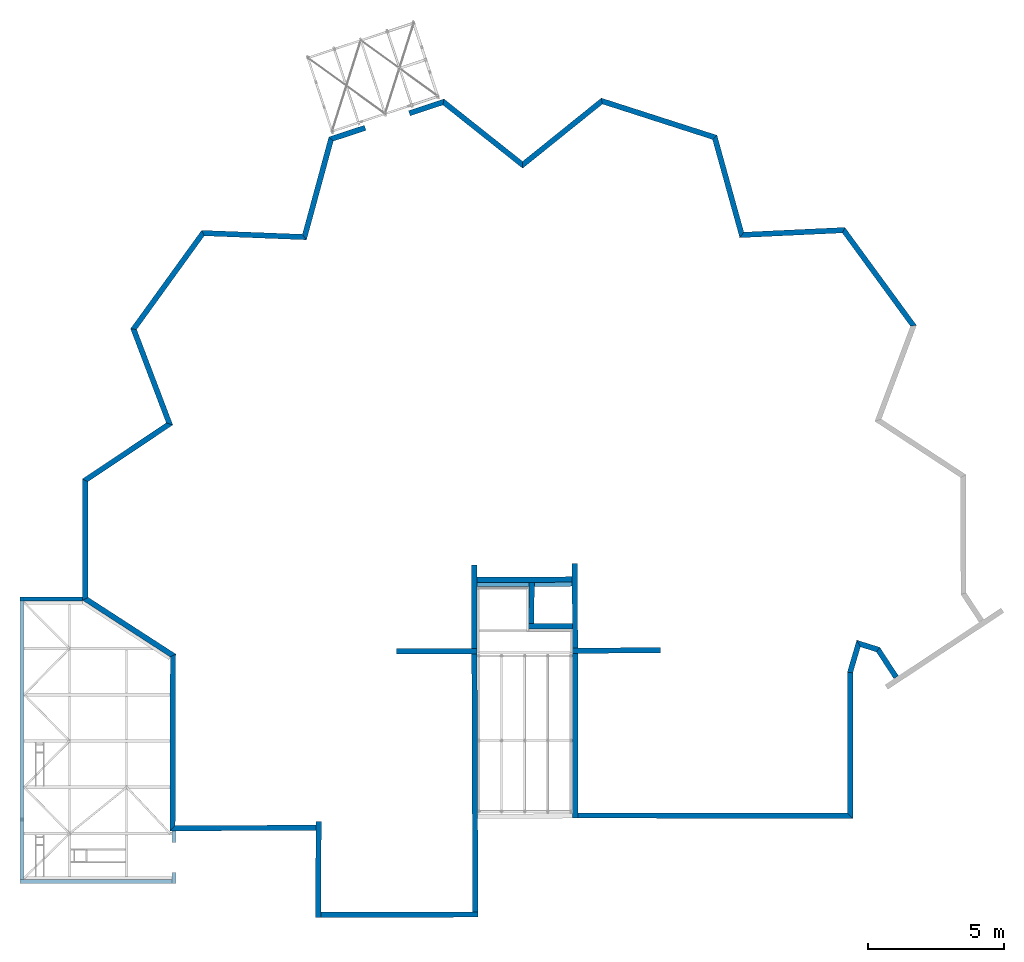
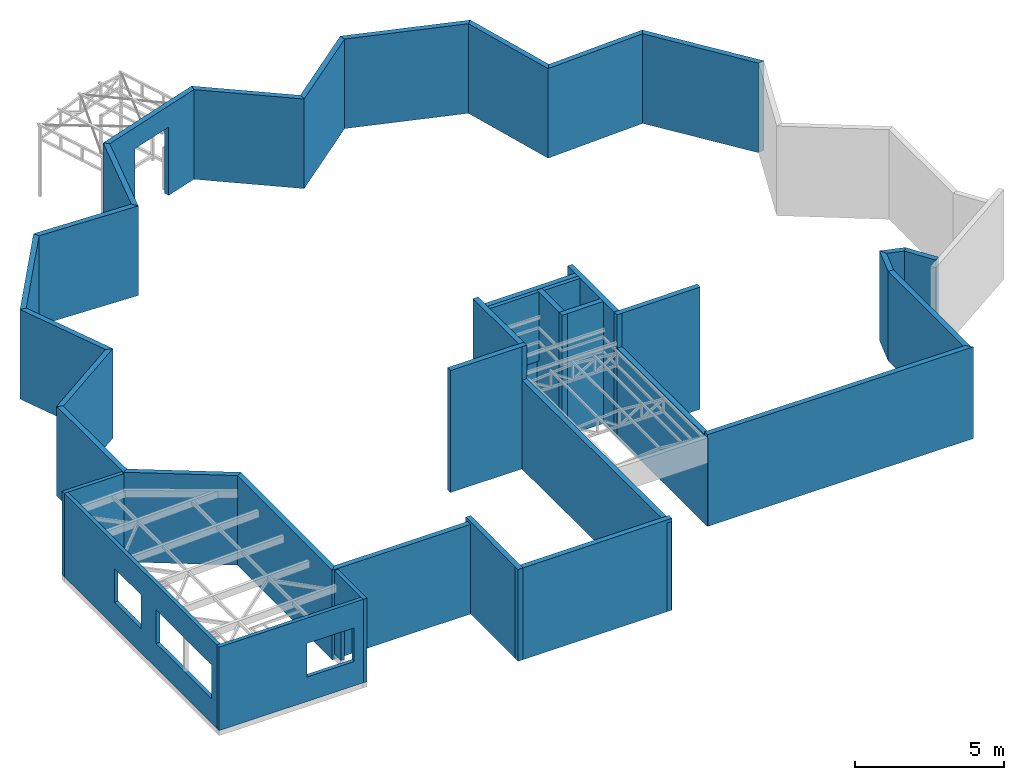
# One storey, part 8 of 9: 37 walls, 5 openings, 18 elements without a shape of their own.
"""IFC2X3 building model written with IfcOpenShell, lengths in millimetres."""

import ifcopenshell
import ifcopenshell.guid

model = None  # the IFC model being written
_history = None  # IfcOwnerHistory: only IFC2X3 demands one
_inside = {}  # id of a spatial element -> (the spatial element, [elements in it])
_under = {}  # id of a project, library or spatial element -> (it, [spatial elements below it])
_declared = {}  # id of a project -> (the project, [libraries it declares])
_typed = {}  # id of a type object -> (the type object, [elements of that type])
_made_of = {}  # id of a material, layer set ... -> (it, [elements and type objects made of it])


def new_model(schema):
    """Start an empty IFC model of exactly this schema.

    Asked for "IFC4X3", IfcOpenShell would pick the latest addendum, in which some entities
    have other attributes; the version numbers below select the first issue.
    IFC2X3 requires an IfcOwnerHistory on every rooted entity: one is made here for all.
    """
    global model, _history
    if schema == "IFC4X3":
        model = ifcopenshell.file(schema_version=(4, 3, 0, 0))
    else:
        model = ifcopenshell.file(schema=schema)
    _inside.clear()
    _under.clear()
    _declared.clear()
    _typed.clear()
    _made_of.clear()
    _history = None
    if model.schema == "IFC2X3":
        org = make("IfcOrganization", Name="unknown")
        user = make(
            "IfcPersonAndOrganization",
            ThePerson=make("IfcPerson", FamilyName="unknown"),
            TheOrganization=org,
        )
        app = make(
            "IfcApplication",
            ApplicationDeveloper=org,
            Version="unknown",
            ApplicationFullName="unknown",
            ApplicationIdentifier="unknown",
        )
        _history = make(
            "IfcOwnerHistory",
            OwningUser=user,
            OwningApplication=app,
            ChangeAction="ADDED",
            CreationDate=0,
        )
    return model


def make(cls, **values):
    """One entity of the class cls with the attributes given. An attribute that is None is left unset."""
    return model.create_entity(
        cls, **{name: value for name, value in values.items() if value is not None}
    )


def rooted(cls, **values):
    """An entity with a GlobalId (a new one), such as an element, a storey or a relation."""
    return make(cls, GlobalId=ifcopenshell.guid.new(), OwnerHistory=_history, **values)


def si_unit(unit_type, name, prefix=None):
    """IfcSIUnit, for example si_unit("LENGTHUNIT", "METRE", prefix="MILLI")."""
    return make("IfcSIUnit", UnitType=unit_type, Prefix=prefix, Name=name)


def assignment(units):
    """IfcUnitAssignment: the units of a project."""
    return None if units is None else make("IfcUnitAssignment", Units=units)


def point(xyz):
    """IfcCartesianPoint."""
    return None if xyz is None else make("IfcCartesianPoint", Coordinates=xyz)


def direction(xyz):
    """IfcDirection."""
    return None if xyz is None else make("IfcDirection", DirectionRatios=xyz)


def frame(location, z_axis=None, x_axis=None):
    """IfcAxis2Placement3D, a coordinate frame: its origin and axes. An axis left out is left unset."""
    return make(
        "IfcAxis2Placement3D",
        Location=point(location),
        Axis=direction(z_axis),
        RefDirection=direction(x_axis),
    )


def frame_2d(location, x_axis=None):
    """IfcAxis2Placement2D, a coordinate frame in the plane: its origin and x axis."""
    return make(
        "IfcAxis2Placement2D", Location=point(location), RefDirection=direction(x_axis)
    )


def origin_with_axes():
    """The frame at (0, 0, 0) with the z axis (0, 0, 1) and the x axis (1, 0, 0) written out."""
    return frame((0.0, 0.0, 0.0), z_axis=(0.0, 0.0, 1.0), x_axis=(1.0, 0.0, 0.0))


def place(relative_to, where):
    """IfcLocalPlacement: puts the frame where relative to a parent placement (None: the world)."""
    return make(
        "IfcLocalPlacement", PlacementRelTo=relative_to, RelativePlacement=where
    )


def context(
    kind, dimensions, precision=None, world=None, true_north=None, identifier=None
):
    """IfcGeometricRepresentationContext, for example the 3D "Model" context."""
    return make(
        "IfcGeometricRepresentationContext",
        ContextIdentifier=identifier,
        ContextType=kind,
        CoordinateSpaceDimension=dimensions,
        Precision=precision,
        WorldCoordinateSystem=world,
        TrueNorth=true_north,
    )


def subcontext(parent, identifier, kind, view, scale=None):
    """IfcGeometricRepresentationSubContext, for example "Body" below "Model"."""
    return make(
        "IfcGeometricRepresentationSubContext",
        ContextIdentifier=identifier,
        ContextType=kind,
        ParentContext=parent,
        TargetScale=scale,
        TargetView=view,
    )


def project(units=None, contexts=None):
    """IfcProject with its units and contexts."""
    return rooted(
        "IfcProject",
        Name="project",
        RepresentationContexts=contexts,
        UnitsInContext=assignment(units),
    )


def spatial(cls, under=None, at=None, **own):
    """A site, building, storey or space (cls), placed at a placement, below another one or the project."""
    s = rooted(cls, ObjectPlacement=at, **own)
    if under is not None:
        _under.setdefault(under.id(), (under, []))[1].append(s)
    return s


def polyline(points):
    """IfcPolyline through the points."""
    return make("IfcPolyline", Points=[point(p) for p in points])


def profile(cls, at=None, kind="AREA", **sizes):
    """A parametric profile (cls). Its sizes go by their IFC names, for example OverallWidth=200.0."""
    return make(cls, ProfileType=kind, Position=at, **sizes)


def rectangle(**sizes):
    """IfcRectangleProfileDef."""
    return profile("IfcRectangleProfileDef", **sizes)


def outline(outer, holes=None, kind="AREA"):
    """IfcArbitraryClosedProfileDef: a profile drawn as a closed curve; with holes, ...WithVoids."""
    if holes is None:
        return make("IfcArbitraryClosedProfileDef", ProfileType=kind, OuterCurve=outer)
    return make(
        "IfcArbitraryProfileDefWithVoids",
        ProfileType=kind,
        OuterCurve=outer,
        InnerCurves=holes,
    )


def extrude(swept, where, along, depth):
    """IfcExtrudedAreaSolid: the profile swept, set in the frame where, extruded along a direction by depth."""
    return make(
        "IfcExtrudedAreaSolid",
        SweptArea=swept,
        Position=where,
        ExtrudedDirection=direction(along),
        Depth=depth,
    )


def clip(a, b, op="DIFFERENCE"):
    """IfcBooleanClippingResult: the solid a cut by the half space b."""
    return make(
        "IfcBooleanClippingResult", Operator=op, FirstOperand=a, SecondOperand=b
    )


def halfspace(plane, agree):
    """IfcHalfSpaceSolid: all space on one side of the plane z = 0 of the frame plane."""
    return make(
        "IfcHalfSpaceSolid",
        BaseSurface=make("IfcPlane", Position=plane),
        AgreementFlag=agree,
    )


def shape(context_of_items, identifier, shape_type, items):
    """IfcShapeRepresentation: the items that make up one representation, for example the "Body"."""
    return make(
        "IfcShapeRepresentation",
        ContextOfItems=context_of_items,
        RepresentationIdentifier=identifier,
        RepresentationType=shape_type,
        Items=items,
    )


def material(Name=None, Category=None):
    """IfcMaterial."""
    return make("IfcMaterial", Name=Name, Category=Category)


def made_of(thing, what):
    """Note that an element or type object is made of a material, layer set ...; save() writes the relation."""
    if what is not None:
        _made_of.setdefault(what.id(), (what, []))[1].append(thing)
    return thing


def type_object(cls, material=None, **own):
    """A type object (cls), such as IfcWallType, which elements share."""
    return made_of(rooted(cls, **own), material)


def element(
    cls,
    number,
    at=None,
    inside=None,
    cuts=None,
    type_object=None,
    material=None,
    context=None,
    identifier="Body",
    shape_type=None,
    held_by="IfcProductDefinitionShape",
    body=None,
    shapes=None,
    **own,
):
    """One element of the class cls, such as IfcWall. Its Tag is "e" and its number.

    at: its placement. inside: the storey or other place that contains it. cuts: it is an
    opening in that element (IfcRelVoidsElement). A single representation is given by context,
    identifier, shape_type and body (its items); several are given by shapes. held_by: the class
    of the entity that holds the representations. save() writes the other relations.
    """
    e = rooted(cls, Tag="e%d" % number, ObjectPlacement=at, **own)
    if body is not None:
        shapes = [shape(context, identifier, shape_type, body)]
    if shapes is not None:
        e.Representation = make(held_by, Representations=shapes)
    if inside is not None:
        _inside.setdefault(inside.id(), (inside, []))[1].append(e)
    if cuts is not None:
        rooted(
            "IfcRelVoidsElement", RelatingBuildingElement=cuts, RelatedOpeningElement=e
        )
    if type_object is not None:
        _typed.setdefault(type_object.id(), (type_object, []))[1].append(e)
    return made_of(e, material)


def aggregate(whole, parts):
    """IfcRelAggregates: a whole, such as a stair, and the parts it consists of."""
    return rooted("IfcRelAggregates", RelatingObject=whole, RelatedObjects=parts)


def save(model, path):
    """Write the relations noted so far, then the file.

    IfcRelAggregates (storeys below a building ...), IfcRelContainedInSpatialStructure (elements
    in a storey), IfcRelDefinesByType, IfcRelAssociatesMaterial and IfcRelDeclares: one each for
    every whole, place, type object, material and project.
    """
    for whole, parts in _under.values():
        aggregate(whole, parts)
    for where, things in _inside.values():
        rooted(
            "IfcRelContainedInSpatialStructure",
            RelatedElements=things,
            RelatingStructure=where,
        )
    for kind, things in _typed.values():
        rooted("IfcRelDefinesByType", RelatedObjects=things, RelatingType=kind)
    for what, things in _made_of.values():
        rooted("IfcRelAssociatesMaterial", RelatedObjects=things, RelatingMaterial=what)
    for by, libraries in _declared.values():
        rooted("IfcRelDeclares", RelatingContext=by, RelatedDefinitions=libraries)
    model.write(path)


model = new_model("IFC2X3")

# Units and contexts
model_context = context("Model", 3, precision=1e-05, world=origin_with_axes())
body_context = subcontext(model_context, "Body", "Model", "MODEL_VIEW")
ifc_project = project(units=[si_unit("LENGTHUNIT", "METRE", prefix="MILLI"), si_unit("AREAUNIT", "SQUARE_METRE"), si_unit("VOLUMEUNIT", "CUBIC_METRE"), si_unit("MASSUNIT", "GRAM", prefix="KILO"), si_unit("TIMEUNIT", "SECOND"), si_unit("PLANEANGLEUNIT", "RADIAN"), si_unit("SOLIDANGLEUNIT", "STERADIAN"), si_unit("THERMODYNAMICTEMPERATUREUNIT", "DEGREE_CELSIUS"), si_unit("LUMINOUSINTENSITYUNIT", "LUMEN")], contexts=[model_context])

# Site, building, storey
site_placement = place(None, origin_with_axes())
site = spatial("IfcSite", under=ifc_project, at=site_placement, Name="01_26-05_PRO_BOULAZAC_CMA-FORMATION", CompositionType="ELEMENT")
building_placement = place(site_placement, origin_with_axes())
building = spatial("IfcBuilding", under=site, at=building_placement, Name="Undefined", CompositionType="ELEMENT")
storey_placement = place(building_placement, origin_with_axes())
storey = spatial("IfcBuildingStorey", under=building, at=storey_placement, Name="Undefined", CompositionType="ELEMENT", Elevation=0.0)

# Assembly, wall
assembly_1_placement = place(storey_placement, origin_with_axes())
assembly_1 = element("IfcElementAssembly", 1, at=assembly_1_placement, inside=storey, Name="PANNEAU", AssemblyPlace="NOTDEFINED", PredefinedType="NOTDEFINED")
ifc_material_1 = material(Name="CONCRETE/C25/30")
wall_type_1 = type_object("IfcWallType", Name="3630*200", PredefinedType="NOTDEFINED")
wall_1_placement = place(assembly_1_placement, frame((20887.6009734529, 13859.9122747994, 0.0), z_axis=(0.0, 0.0, 1.0), x_axis=(0.00216519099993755, -0.99999765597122, 0.0)))
wall_1 = element("IfcWallStandardCase", 2, at=wall_1_placement, type_object=wall_type_1, material=ifc_material_1, Name="PANNEAU", context=body_context, shape_type="SweptSolid", body=[
    extrude(rectangle(XDim=6054.52108959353, YDim=200.0, at=frame_2d((0.0, 3027.26054479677), x_axis=(0.0, -1.0))), frame((0.0, 0.0, 0.0), z_axis=(0.0, 0.0, 1.0), x_axis=(0.0, -1.0, 0.0)), (0.0, 0.0, 1.0), 3630.0),
])
aggregate(assembly_1, [wall_1])

assembly_2_placement = place(storey_placement, origin_with_axes())
assembly_2 = element("IfcElementAssembly", 3, at=assembly_2_placement, inside=storey, Name="PANNEAU", AssemblyPlace="NOTDEFINED", PredefinedType="NOTDEFINED")
wall_2_placement = place(assembly_2_placement, frame((17222.9926856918, 4167.75452609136, 0.0), z_axis=(0.0, 0.0, 1.0), x_axis=(-0.00356522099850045, 0.99999364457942, 0.0)))
wall_2 = element("IfcWallStandardCase", 4, at=wall_2_placement, type_object=wall_type_1, material=ifc_material_1, Name="PANNEAU", context=body_context, shape_type="SweptSolid", body=[
    extrude(rectangle(XDim=9667.9941359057, YDim=200.0, at=frame_2d((0.0, 4833.99706795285), x_axis=(0.0, -1.0))), frame((0.0, 0.0, 0.0), z_axis=(0.0, 0.0, 1.0), x_axis=(0.0, -1.0, 0.0)), (0.0, 0.0, 1.0), 3630.0),
])
aggregate(assembly_2, [wall_2])

assembly_3_placement = place(storey_placement, origin_with_axes())
assembly_3 = element("IfcElementAssembly", 5, at=assembly_3_placement, inside=storey, Name="PANNEAU", AssemblyPlace="NOTDEFINED", PredefinedType="NOTDEFINED")
wall_type_2 = type_object("IfcWallType", Name="5000*200", PredefinedType="NOTDEFINED")
wall_3_placement = place(assembly_3_placement, frame((17188.5241500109, 13835.6872178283, 0.0), z_axis=(0.0, 0.0, 1.0), x_axis=(-0.00356522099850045, 0.99999364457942, 0.0)))
wall_3 = element("IfcWallStandardCase", 6, at=wall_3_placement, type_object=wall_type_2, material=ifc_material_1, Name="PANNEAU", context=body_context, shape_type="SweptSolid", body=[
    extrude(rectangle(XDim=3264.79346123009, YDim=200.0, at=frame_2d((0.0, 1632.39673061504), x_axis=(0.0, -1.0))), frame((0.0, 0.0, 0.0), z_axis=(0.0, 0.0, 1.0), x_axis=(0.0, -1.0, 0.0)), (0.0, 0.0, 1.0), 5000.0),
])
aggregate(assembly_3, [wall_3])

assembly_4_placement = place(storey_placement, origin_with_axes())
assembly_4 = element("IfcElementAssembly", 7, at=assembly_4_placement, inside=storey, Name="PANNEAU", AssemblyPlace="NOTDEFINED", PredefinedType="NOTDEFINED")
wall_4_placement = place(assembly_4_placement, frame((20787.1281086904, 13959.6946365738, 0.000106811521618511), z_axis=(0.0, 0.0, 1.0), x_axis=(0.999988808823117, 0.004730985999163, 0.0)))
wall_4 = element("IfcWallStandardCase", 8, at=wall_4_placement, type_object=wall_type_2, material=ifc_material_1, Name="PANNEAU", context=body_context, shape_type="SweptSolid", body=[
    extrude(rectangle(XDim=3231.28920265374, YDim=200.0, at=frame_2d((0.0, 1615.64460132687), x_axis=(0.0, -1.0))), frame((0.0, 0.0, 0.0), z_axis=(0.0, 0.0, 1.0), x_axis=(0.0, -1.0, 0.0)), (0.0, 0.0, 1.0), 5000.0),
])
aggregate(assembly_4, [wall_4])

assembly_5_placement = place(storey_placement, origin_with_axes())
assembly_5 = element("IfcElementAssembly", 9, at=assembly_5_placement, inside=storey, Name="PANNEAU", AssemblyPlace="NOTDEFINED", PredefinedType="NOTDEFINED")
wall_5_placement = place(assembly_5_placement, frame((14328.0503001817, 13934.3373246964, 0.000106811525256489), z_axis=(0.0, 0.0, 1.0), x_axis=(0.999999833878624, 0.000576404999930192, 0.0)))
wall_5 = element("IfcWallStandardCase", 10, at=wall_5_placement, type_object=wall_type_2, material=ifc_material_1, Name="PANNEAU", context=body_context, shape_type="SweptSolid", body=[
    extrude(rectangle(XDim=2960.41606554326, YDim=200.0, at=frame_2d((0.0, 1480.20803277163), x_axis=(0.0, -1.0))), frame((0.0, 0.0, 0.0), z_axis=(0.0, 0.0, 1.0), x_axis=(0.0, -1.0, 0.0)), (0.0, 0.0, 1.0), 5000.0),
])
aggregate(assembly_5, [wall_5])

assembly_6_placement = place(storey_placement, origin_with_axes())
assembly_6 = element("IfcElementAssembly", 11, at=assembly_6_placement, inside=storey, Name="PANNEAU", AssemblyPlace="NOTDEFINED", PredefinedType="NOTDEFINED")
wall_6_placement = place(assembly_6_placement, frame((19180.6558132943, 14855.782848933, 0.0), z_axis=(0.0, 0.0, 1.0), x_axis=(0.999981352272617, 0.00610697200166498, 0.0)))
wall_6 = element("IfcWallStandardCase", 12, at=wall_6_placement, type_object=wall_type_2, material=ifc_material_1, Name="PANNEAU", context=body_context, shape_type="SweptSolid", body=[
    extrude(rectangle(XDim=1604.40384985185, YDim=200.0, at=frame_2d((0.0, 802.201924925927), x_axis=(0.0, -1.0))), frame((0.0, 0.0, 0.0), z_axis=(0.0, 0.0, 1.0), x_axis=(0.0, -1.0, 0.0)), (0.0, 0.0, 1.0), 5000.0),
])
aggregate(assembly_6, [wall_6])

assembly_7_placement = place(storey_placement, origin_with_axes())
assembly_7 = element("IfcElementAssembly", 13, at=assembly_7_placement, inside=storey, Name="PANNEAU", AssemblyPlace="NOTDEFINED", PredefinedType="NOTDEFINED")
wall_7_placement = place(assembly_7_placement, frame((19290.4642117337, 16468.9529858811, 0.0), z_axis=(0.0, 0.0, 1.0), x_axis=(-0.00536790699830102, -0.999985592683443, 0.0)))
wall_7 = element("IfcWallStandardCase", 14, at=wall_7_placement, type_object=wall_type_2, material=ifc_material_1, Name="PANNEAU", context=body_context, shape_type="SweptSolid", body=[
    extrude(rectangle(XDim=1713.7297531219, YDim=200.0, at=frame_2d((0.0, 856.864876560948), x_axis=(0.0, -1.0))), frame((0.0, 0.0, 0.0), z_axis=(0.0, 0.0, 1.0), x_axis=(0.0, -1.0, 0.0)), (0.0, 0.0, 1.0), 5000.0),
])
aggregate(assembly_7, [wall_7])

assembly_8_placement = place(storey_placement, origin_with_axes())
assembly_8 = element("IfcElementAssembly", 15, at=assembly_8_placement, inside=storey, Name="PANNEAU", AssemblyPlace="NOTDEFINED", PredefinedType="NOTDEFINED")
wall_8_placement = place(assembly_8_placement, frame((17279.0484119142, 16559.278312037, 0.0), z_axis=(0.0, 0.0, 1.0), x_axis=(0.999985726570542, 0.00534290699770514, 0.0)))
wall_8 = element("IfcWallStandardCase", 16, at=wall_8_placement, type_object=wall_type_2, material=ifc_material_1, Name="PANNEAU", context=body_context, shape_type="SweptSolid", body=[
    extrude(rectangle(XDim=3502.39984477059, YDim=200.0, at=frame_2d((0.0, 1751.19992240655), x_axis=(0.0, -1.0))), frame((0.0, 0.0, 0.0), z_axis=(0.0, 0.0, 1.0), x_axis=(0.0, -1.0, 0.0)), (0.0, 0.0, 1.0), 5000.0),
])
aggregate(assembly_8, [wall_8])

assembly_9_placement = place(storey_placement, origin_with_axes())
assembly_9 = element("IfcElementAssembly", 17, at=assembly_9_placement, inside=storey, Name="PANNEAU", AssemblyPlace="NOTDEFINED", PredefinedType="NOTDEFINED")
wall_9_placement = place(assembly_9_placement, frame((20880.4388677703, 17167.7443969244, 0.0), z_axis=(0.0, 0.0, 1.0), x_axis=(0.00216519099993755, -0.99999765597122, 0.0)))
wall_9 = element("IfcWallStandardCase", 18, at=wall_9_placement, type_object=wall_type_2, material=ifc_material_1, Name="PANNEAU", context=body_context, shape_type="SweptSolid", body=[
    extrude(rectangle(XDim=3307.83987579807, YDim=200.0, at=frame_2d((0.0, 1653.91993789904), x_axis=(0.0, -1.0))), frame((0.0, 0.0, 0.0), z_axis=(0.0, 0.0, 1.0), x_axis=(0.0, -1.0, 0.0)), (0.0, 0.0, 1.0), 5000.0),
])
aggregate(assembly_9, [wall_9])

# Assembly, walls
assembly_10_placement = place(storey_placement, origin_with_axes())
assembly_10 = element("IfcElementAssembly", 19, at=assembly_10_placement, inside=storey, Name="PANNEAU", AssemblyPlace="NOTDEFINED", PredefinedType="NOTDEFINED")
wall_type_3 = type_object("IfcWallType", Name="3670*200", PredefinedType="NOTDEFINED")
wall_10_placement = place(assembly_10_placement, frame((21914.6506948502, 34188.1991308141, 0.0), z_axis=(0.0, 0.0, 1.0), x_axis=(-0.779024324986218, -0.626993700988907, 0.0)))
wall_10 = element("IfcWall", 20, at=wall_10_placement, type_object=wall_type_3, material=ifc_material_1, Name="PANNEAU", context=body_context, shape_type="Clipping", body=[
    clip(clip(extrude(rectangle(XDim=4472.15701250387, YDim=200.0, at=frame_2d((0.0, 1923.11815094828), x_axis=(0.0, -1.0))), frame((0.0, 0.0, 0.0), z_axis=(0.0, 0.0, 1.0), x_axis=(0.0, -1.0, 0.0)), (0.0, 0.0, 1.0), 3670.0), halfspace(frame((3712.37047486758, -100.000000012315, 1835.0), z_axis=(0.781064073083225, -0.624450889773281, 0.0), x_axis=(0.0, 0.0, 1.0)), False)), halfspace(frame((7.25995050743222e-08, -100.000000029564, 1835.0), z_axis=(0.880210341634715, -0.474583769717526, 0.0), x_axis=(0.0, 0.0, 1.0)), True)),
])
wall_11_placement = place(assembly_10_placement, frame((26070.4563127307, 32803.7278910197, 0.0), z_axis=(0.0, 0.0, 1.0), x_axis=(-0.951938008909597, 0.306290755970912, 0.0)))
wall_11 = element("IfcWall", 21, at=wall_11_placement, type_object=wall_type_3, material=ifc_material_1, Name="PANNEAU", context=body_context, shape_type="Clipping", body=[
    clip(clip(extrude(rectangle(XDim=5042.38380032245, YDim=200.0, at=frame_2d((0.0, 2231.83559773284), x_axis=(0.0, -1.0))), frame((0.0, 0.0, 0.0), z_axis=(0.0, 0.0, 1.0), x_axis=(0.0, -1.0, 0.0)), (0.0, 0.0, 1.0), 3670.0), halfspace(frame((4463.66677649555, -100.000000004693, 1835.0), z_axis=(0.880210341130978, 0.474583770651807, 0.0), x_axis=(0.0, 0.0, 1.0)), False)), halfspace(frame((7.25995050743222e-08, -100.000000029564, 1835.0), z_axis=(0.880194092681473, -0.474613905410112, 0.0), x_axis=(0.0, 0.0, 1.0)), True)),
])
wall_12_placement = place(assembly_10_placement, frame((26991.716051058, 29312.1845814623, 0.0), z_axis=(0.0, 0.0, 1.0), x_axis=(-0.267166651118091, 0.963650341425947, 0.0)))
wall_12 = element("IfcWall", 22, at=wall_12_placement, type_object=wall_type_3, material=ifc_material_1, Name="PANNEAU", context=body_context, shape_type="Clipping", body=[
    clip(clip(extrude(rectangle(XDim=4677.76718690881, YDim=200.0, at=frame_2d((0.0, 1780.28452952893), x_axis=(0.0, -1.0))), frame((0.0, 0.0, 0.0), z_axis=(0.0, 0.0, 1.0), x_axis=(0.0, -1.0, 0.0)), (0.0, 0.0, 1.0), 3670.0), halfspace(frame((3694.3072526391, -100.000000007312, 1835.0), z_axis=(0.880194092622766, 0.474613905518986, 0.0), x_axis=(0.0, 0.0, 1.0)), False)), halfspace(frame((7.25995050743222e-08, -100.000000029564, 1835.0), z_axis=(0.781567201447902, 0.623821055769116, 0.0), x_axis=(0.0, 0.0, 1.0)), True)),
])
wall_13_placement = place(assembly_10_placement, frame((30807.326980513, 29413.3504994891, 0.0), z_axis=(0.0, 0.0, 1.0), x_axis=(-0.998900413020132, -0.046882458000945, 0.0)))
wall_13 = element("IfcWall", 23, at=wall_13_placement, type_object=wall_type_3, material=ifc_material_1, Name="PANNEAU", context=body_context, shape_type="Clipping", body=[
    clip(clip(extrude(rectangle(XDim=4332.39529044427, YDim=200.0, at=frame_2d((0.0, 1926.10497269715), x_axis=(0.0, -1.0))), frame((0.0, 0.0, 0.0), z_axis=(0.0, 0.0, 1.0), x_axis=(0.0, -1.0, 0.0)), (0.0, 0.0, 1.0), 3670.0), halfspace(frame((3718.64662492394, -99.999999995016, 1835.0), z_axis=(0.781567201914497, -0.623821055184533, 0.0), x_axis=(0.0, 0.0, 1.0)), False)), halfspace(frame((7.25995050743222e-08, -100.000000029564, 1835.0), z_axis=(0.880836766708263, -0.473420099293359, 0.0), x_axis=(0.0, 0.0, 1.0)), True)),
])
wall_14_placement = place(assembly_10_placement, frame((33354.2631060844, 25854.1550584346, 0.0), z_axis=(0.0, 0.0, 1.0), x_axis=(-0.590240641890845, 0.807227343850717, 0.0)))
wall_14 = element("IfcWall", 24, at=wall_14_placement, type_object=wall_type_3, material=ifc_material_1, Name="PANNEAU", context=body_context, shape_type="Clipping", body=[
    clip(clip(extrude(rectangle(XDim=5190.25609973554, YDim=200.0, at=frame_2d((0.0, 2230.02243646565), x_axis=(0.0, -1.0))), frame((0.0, 0.0, 0.0), z_axis=(0.0, 0.0, 1.0), x_axis=(0.0, -1.0, 0.0)), (0.0, 0.0, 1.0), 3670.0), halfspace(frame((4459.78626168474, -100.000000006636, 1835.0), z_axis=(0.880836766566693, 0.47342009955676, 0.0), x_axis=(0.0, 0.0, 1.0)), False)), halfspace(frame((7.25995050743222e-08, -100.000000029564, 1835.0), z_axis=(0.879886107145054, -0.475184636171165, 0.0), x_axis=(0.0, 0.0, 1.0)), True)),
])

assembly_11_placement = place(storey_placement, origin_with_axes())
assembly_11 = element("IfcElementAssembly", 25, at=assembly_11_placement, inside=storey, Name="PANNEAU", AssemblyPlace="NOTDEFINED", PredefinedType="NOTDEFINED")
wall_15_placement = place(assembly_11_placement, frame((32042.2053311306, 13967.4839496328, 0.0), z_axis=(0.0, 0.0, 1.0), x_axis=(0.546414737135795, -0.83751473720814, 0.0)))
wall_15 = element("IfcWall", 26, at=wall_15_placement, type_object=wall_type_3, material=ifc_material_1, Name="PANNEAU", context=body_context, shape_type="Clipping", body=[
    clip(extrude(rectangle(XDim=1643.68836712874, YDim=200.0, at=frame_2d((0.0, 351.764925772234), x_axis=(0.0, -1.0))), frame((0.0, 0.0, 0.0), z_axis=(0.0, 0.0, 1.0), x_axis=(0.0, -1.0, 0.0)), (0.0, 0.0, 1.0), 3670.0), halfspace(frame((7.25995050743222e-08, -100.000000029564, 1835.0), z_axis=(0.941746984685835, 0.336322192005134, 0.0), x_axis=(0.0, 0.0, 1.0)), True)),
])
wall_16_placement = place(assembly_11_placement, frame((31401.5329749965, 14194.1109671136, 0.0), z_axis=(0.0, 0.0, 1.0), x_axis=(0.953334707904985, -0.301915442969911, 0.0)))
wall_16 = element("IfcWall", 27, at=wall_16_placement, type_object=wall_type_3, material=ifc_material_1, Name="PANNEAU", context=body_context, shape_type="Clipping", body=[
    clip(clip(extrude(rectangle(XDim=1585.15031346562, YDim=200.0, at=frame_2d((0.0, 274.688385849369), x_axis=(0.0, -1.0))), frame((0.0, 0.0, 0.0), z_axis=(0.0, 0.0, 1.0), x_axis=(0.0, -1.0, 0.0)), (0.0, 0.0, 1.0), 3670.0), halfspace(frame((615.851307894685, -99.9999999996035, 1835.0), z_axis=(0.94174698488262, -0.33632219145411, 0.0), x_axis=(0.0, 0.0, 1.0)), False)), halfspace(frame((7.25995050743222e-08, -100.000000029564, 1835.0), z_axis=(0.699416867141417, 0.714713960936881, 0.0), x_axis=(0.0, 0.0, 1.0)), True)),
])
wall_17_placement = place(assembly_11_placement, frame((30994.9053599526, 13169.8175845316, 0.0), z_axis=(0.0, 0.0, 1.0), x_axis=(0.281222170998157, 0.959642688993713, 0.0)))
wall_17 = element("IfcWall", 28, at=wall_17_placement, type_object=wall_type_3, material=ifc_material_1, Name="PANNEAU", context=body_context, shape_type="Clipping", body=[
    clip(clip(extrude(rectangle(XDim=1914.19571188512, YDim=200.0, at=frame_2d((0.0, 542.584095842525), x_axis=(0.0, -1.0))), frame((0.0, 0.0, 0.0), z_axis=(0.0, 0.0, 1.0), x_axis=(0.0, -1.0, 0.0)), (0.0, 0.0, 1.0), 3670.0), halfspace(frame((997.331756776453, -100.000000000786, 1835.0), z_axis=(0.699416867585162, -0.714713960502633, 0.0), x_axis=(0.0, 0.0, 1.0)), False)), halfspace(frame((7.25995050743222e-08, -100.000000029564, 1835.0), z_axis=(0.989859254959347, 0.142051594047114, 0.0), x_axis=(0.0, 0.0, 1.0)), True)),
])
wall_18_placement = place(assembly_11_placement, frame((30990.8696288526, 7799.77961903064, 0.0), z_axis=(0.0, 0.0, 1.0), x_axis=(0.0, 1.0, 0.0)))
wall_18 = element("IfcWall", 29, at=wall_18_placement, type_object=wall_type_3, material=ifc_material_1, Name="PANNEAU", context=body_context, shape_type="Clipping", body=[
    clip(clip(extrude(rectangle(XDim=5759.58822895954, YDim=200.0, at=frame_2d((0.0, 2728.15950777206), x_axis=(0.0, -1.0))), frame((0.0, 0.0, 0.0), z_axis=(0.0, 0.0, 1.0), x_axis=(0.0, -1.0, 0.0)), (0.0, 0.0, 1.0), 3670.0), halfspace(frame((5341.91574840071, -100.0, 1835.0), z_axis=(0.989859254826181, -0.14205159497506, 0.0), x_axis=(0.0, 0.0, 1.0)), False)), halfspace(frame((6.10270944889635e-09, -99.9999999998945, 1880.0), z_axis=(0.706920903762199, -0.707292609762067, 0.0), x_axis=(0.0, 0.0, 1.0)), True)),
])

# Wall
wall_19_placement = place(assembly_10_placement, frame((5921.89483224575, 22248.0017726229, 0.0), z_axis=(0.0, 0.0, 1.0), x_axis=(-0.831384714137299, -0.555697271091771, 0.0)))
wall_19 = element("IfcWall", 30, at=wall_19_placement, type_object=wall_type_3, material=ifc_material_1, Name="PANNEAU", context=body_context, shape_type="Clipping", body=[
    clip(clip(extrude(rectangle(XDim=4768.37943590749, YDim=200.0, at=frame_2d((0.0, 1785.96267603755), x_axis=(0.0, -1.0))), frame((0.0, 0.0, 0.0), z_axis=(0.0, 0.0, 1.0), x_axis=(0.0, -1.0, 0.0)), (0.0, 0.0, 1.0), 3670.0), halfspace(frame((3705.14159297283, -100.000000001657, 1835.0), z_axis=(0.88130133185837, 0.472554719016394, 0.0), x_axis=(0.0, 0.0, 1.0)), False)), halfspace(frame((7.25995050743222e-08, -100.000000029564, 1835.0), z_axis=(0.782407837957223, 0.62276638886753, 0.0), x_axis=(0.0, 0.0, 1.0)), True)),
])

wall_20_placement = place(assembly_10_placement, frame((4646.44683243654, 25824.8938417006, 0.0), z_axis=(0.0, 0.0, 1.0), x_axis=(0.355035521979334, -0.934852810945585, 0.0)))
wall_20 = element("IfcWall", 31, at=wall_20_placement, type_object=wall_type_3, material=ifc_material_1, Name="PANNEAU", context=body_context, shape_type="Clipping", body=[
    clip(clip(extrude(rectangle(XDim=4312.28768756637, YDim=200.0, at=frame_2d((0.0, 1916.36538206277), x_axis=(0.0, -1.0))), frame((0.0, 0.0, 0.0), z_axis=(0.0, 0.0, 1.0), x_axis=(0.0, -1.0, 0.0)), (0.0, 0.0, 1.0), 3670.0), halfspace(frame((3699.24549083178, -99.9999999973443, 1835.0), z_axis=(0.78240783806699, -0.622766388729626, 0.0), x_axis=(0.0, 0.0, 1.0)), False)), halfspace(frame((7.25995050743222e-08, -100.000000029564, 1835.0), z_axis=(0.880313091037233, -0.474393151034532, 0.0), x_axis=(0.0, 0.0, 1.0)), True)),
])

wall_21_placement = place(assembly_10_placement, frame((7246.15832743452, 29346.781787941, 0.0), z_axis=(0.0, 0.0, 1.0), x_axis=(-0.585581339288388, -0.810613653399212, 0.0)))
wall_21 = element("IfcWall", 32, at=wall_21_placement, type_object=wall_type_3, material=ifc_material_1, Name="PANNEAU", context=body_context, shape_type="Clipping", body=[
    clip(clip(extrude(rectangle(XDim=5188.30997033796, YDim=200.0, at=frame_2d((0.0, 2230.24086755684), x_axis=(0.0, -1.0))), frame((0.0, 0.0, 0.0), z_axis=(0.0, 0.0, 1.0), x_axis=(0.0, -1.0, 0.0)), (0.0, 0.0, 1.0), 3670.0), halfspace(frame((4460.75589420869, -99.9999999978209, 1835.0), z_axis=(0.880313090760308, 0.474393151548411, 0.0), x_axis=(0.0, 0.0, 1.0)), False)), halfspace(frame((7.25995050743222e-08, -100.000000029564, 1835.0), z_axis=(0.881320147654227, -0.472519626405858, 0.0), x_axis=(0.0, 0.0, 1.0)), True)),
])

wall_22_placement = place(assembly_10_placement, frame((10865.7162397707, 29160.5112435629, 0.0), z_axis=(0.0, 0.0, 1.0), x_axis=(-0.999235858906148, 0.0390857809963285, 0.0)))
wall_22 = element("IfcWall", 33, at=wall_22_placement, type_object=wall_type_3, material=ifc_material_1, Name="PANNEAU", context=body_context, shape_type="Clipping", body=[
    clip(clip(extrude(rectangle(XDim=4319.57528804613, YDim=200.0, at=frame_2d((0.0, 1787.06517470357), x_axis=(0.0, -1.0))), frame((0.0, 0.0, 0.0), z_axis=(0.0, 0.0, 1.0), x_axis=(0.0, -1.0, 0.0)), (0.0, 0.0, 1.0), 3670.0), halfspace(frame((3707.36080252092, -100.000000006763, 1835.0), z_axis=(0.881320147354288, 0.47251962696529, 0.0), x_axis=(0.0, 0.0, 1.0)), False)), halfspace(frame((7.25995050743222e-08, -100.000000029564, 1835.0), z_axis=(0.782334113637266, 0.622859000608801, 0.0), x_axis=(0.0, 0.0, 1.0)), True)),
])

wall_23_placement = place(assembly_10_placement, frame((11936.8181413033, 32809.5222189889, -3.62396331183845e-05), z_axis=(0.0, 0.0, 1.0), x_axis=(-0.262013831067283, -0.965064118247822, 0.0)))
wall_23 = element("IfcWall", 34, at=wall_23_placement, type_object=wall_type_3, material=ifc_material_1, Name="PANNEAU", context=body_context, shape_type="Clipping", body=[
    clip(clip(extrude(rectangle(XDim=4681.95122052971, YDim=200.0, at=frame_2d((0.0, 1919.05836384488), x_axis=(0.0, -1.0))), frame((0.0, 0.0, 0.0), z_axis=(0.0, 0.0, 1.0), x_axis=(0.0, -1.0, 0.0)), (0.0, 0.0, 1.0), 3670.0), halfspace(frame((3704.71630332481, -100.000000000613, 1835.0), z_axis=(0.78233411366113, -0.622859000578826, 0.0), x_axis=(0.0, 0.0, 1.0)), False)), halfspace(frame((7.25995050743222e-08, -100.000000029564, 1835.0), z_axis=(0.880695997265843, -0.473681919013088, 0.0), x_axis=(0.0, 0.0, 1.0)), True)),
])

# Wall, opening
wall_24_placement = place(assembly_10_placement, frame((16103.0925752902, 34137.1690325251, -3.62396294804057e-05), z_axis=(0.0, 0.0, 1.0), x_axis=(-0.949626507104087, -0.313383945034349, 0.0)))
wall_24 = element("IfcWall", 35, at=wall_24_placement, type_object=wall_type_3, material=ifc_material_1, Name="PANNEAU", context=body_context, shape_type="Clipping", body=[
    clip(clip(extrude(rectangle(XDim=5037.69785345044, YDim=200.0, at=frame_2d((0.0, 2228.04732277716), x_axis=(0.0, -1.0))), frame((0.0, 0.0, 0.0), z_axis=(0.0, 0.0, 1.0), x_axis=(0.0, -1.0, 0.0)), (0.0, 0.0, 1.0), 3670.0), halfspace(frame((4455.9017883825, -100.000000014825, 1835.0), z_axis=(0.880695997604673, 0.473681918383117, 0.0), x_axis=(0.0, 0.0, 1.0)), False)), halfspace(frame((7.25995050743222e-08, -100.000000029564, 1835.0), z_axis=(0.87998702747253, -0.474997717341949, 0.0), x_axis=(0.0, 0.0, 1.0)), True)),
])
opening_1_placement = place(assembly_10_placement, frame((16103.0925752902, 34137.1690325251, -3.62396294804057e-05), z_axis=(0.0, 0.0, 1.0), x_axis=(-0.949626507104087, -0.313383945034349, 0.0)))
element("IfcOpeningElement", 36, at=opening_1_placement, cuts=wall_24, ObjectType="Recess", context=body_context, shape_type="SweptSolid", body=[
    extrude(outline(polyline([(0.0, 0.0), (2800.0, 0.0), (2800.00000000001, 1705.47424542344), (3.63797880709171e-12, 1705.47424542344), (0.0, 0.0)])), frame((1374.39932421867, -103.000760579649, 0.000143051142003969), z_axis=(0.0, 1.0, 0.0), x_axis=(0.0, 0.0, 1.0)), (0.0, 0.0, 1.0), 206.0),
])

# Wall
wall_25_placement = place(assembly_10_placement, frame((18897.7342789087, 31860.159106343, -3.62396240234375e-05), z_axis=(0.0, 0.0, 1.0), x_axis=(-0.783095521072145, 0.621901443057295, 0.0)))
wall_25 = element("IfcWall", 37, at=wall_25_placement, type_object=wall_type_3, material=ifc_material_1, Name="PANNEAU", context=body_context, shape_type="Clipping", body=[
    clip(clip(extrude(rectangle(XDim=4440.66929339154, YDim=200.0, at=frame_2d((0.0, 1777.10948921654), x_axis=(0.0, -1.0))), frame((0.0, 0.0, 0.0), z_axis=(0.0, 0.0, 1.0), x_axis=(0.0, -1.0, 0.0)), (0.0, 0.0, 1.0), 3670.0), halfspace(frame((3688.145525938, -100.000000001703, 1835.0), z_axis=(0.879987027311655, 0.474997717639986, 0.0), x_axis=(0.0, 0.0, 1.0)), False)), halfspace(frame((7.25995050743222e-08, -100.000000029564, 1835.0), z_axis=(0.78106407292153, 0.62445088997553, 0.0), x_axis=(0.0, 0.0, 1.0)), True)),
])

wall_26_placement = place(assembly_10_placement, frame((5996.02348948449, 7441.9481578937, -3.62396240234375e-05), z_axis=(0.0, 0.0, 1.0), x_axis=(0.999999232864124, 0.00123865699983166, 0.0)))
wall_26 = element("IfcWall", 38, at=wall_26_placement, type_object=wall_type_3, material=ifc_material_1, Name="PANNEAU", context=body_context, shape_type="Clipping", body=[
    clip(extrude(rectangle(XDim=5487.44000279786, YDim=200.0, at=frame_2d((0.0, 2622.66433278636), x_axis=(0.0, -1.0))), frame((0.0, 0.0, 0.0), z_axis=(0.0, 0.0, 1.0), x_axis=(0.0, -1.0, 0.0)), (0.0, 0.0, 1.0), 3670.0), halfspace(frame((7.25995050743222e-08, -100.000000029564, 1835.0), z_axis=(0.705603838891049, -0.708606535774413, 0.0), x_axis=(0.0, 0.0, 1.0)), True)),
])

wall_27_placement = place(assembly_10_placement, frame((6116.43394249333, 14086.4337174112, -3.62396249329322e-05), z_axis=(0.0, 0.0, 1.0), x_axis=(-0.00300779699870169, -0.999995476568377, 0.0)))
wall_27 = element("IfcWall", 39, at=wall_27_placement, type_object=wall_type_3, material=ifc_material_1, Name="PANNEAU", context=body_context, shape_type="Clipping", body=[
    clip(clip(extrude(rectangle(XDim=7023.93014774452, YDim=200.0, at=frame_2d((0.0, 3473.48753528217), x_axis=(0.0, -1.0))), frame((0.0, 0.0, 0.0), z_axis=(0.0, 0.0, 1.0), x_axis=(0.0, -1.0, 0.0)), (0.0, 0.0, 1.0), 3670.0), halfspace(frame((6744.81677222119, -99.9999999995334, 1835.0), z_axis=(0.705603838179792, 0.708606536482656, 0.0), x_axis=(0.0, 0.0, 1.0)), False)), halfspace(frame((357.186201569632, -99.9999999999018, 1835.0), z_axis=(0.877685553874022, 0.47923696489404, 0.0), x_axis=(0.0, 0.0, 1.0)), True)),
])

wall_28_placement = place(assembly_10_placement, frame((2852.64777198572, 15894.7954809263, -3.62396231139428e-05), z_axis=(0.0, 0.0, 1.0), x_axis=(0.839608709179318, -0.543191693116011, 0.0)))
wall_28 = element("IfcWall", 40, at=wall_28_placement, type_object=wall_type_3, material=ifc_material_1, Name="PANNEAU", context=body_context, shape_type="Clipping", body=[
    clip(clip(extrude(rectangle(XDim=4830.91364347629, YDim=200.0, at=frame_2d((0.0, 1970.20691250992), x_axis=(0.0, -1.0))), frame((0.0, 0.0, 0.0), z_axis=(0.0, 0.0, 1.0), x_axis=(0.0, -1.0, 0.0)), (0.0, 0.0, 1.0), 3670.0), halfspace(frame((3831.584181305, -99.9999999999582, 1835.0), z_axis=(0.877685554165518, -0.479236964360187, 0.0), x_axis=(0.0, 0.0, 1.0)), False)), halfspace(frame((7.25995050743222e-08, -100.000000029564, 1835.0), z_axis=(0.879068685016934, -0.476695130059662, 0.0), x_axis=(0.0, 0.0, 1.0)), True)),
])

wall_29_placement = place(assembly_10_placement, frame((2885.92663467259, 20272.4811467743, -3.62396231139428e-05), z_axis=(0.0, 0.0, 1.0), x_axis=(0.00277976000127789, -0.999996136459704, 0.0)))
wall_29 = element("IfcWall", 41, at=wall_29_placement, type_object=wall_type_3, material=ifc_material_1, Name="PANNEAU", context=body_context, shape_type="Clipping", body=[
    clip(clip(extrude(rectangle(XDim=4830.50944395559, YDim=200.0, at=frame_2d((0.0, 2230.38930661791), x_axis=(0.0, -1.0))), frame((0.0, 0.0, 0.0), z_axis=(0.0, 0.0, 1.0), x_axis=(0.0, -1.0, 0.0)), (0.0, 0.0, 1.0), 3670.0), halfspace(frame((4461.38579760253, -99.9999999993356, 1835.0), z_axis=(0.879068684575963, 0.476695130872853, 0.0), x_axis=(0.0, 0.0, 1.0)), False)), halfspace(frame((7.25995050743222e-08, -100.000000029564, 1835.0), z_axis=(0.881301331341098, -0.472554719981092, 0.0), x_axis=(0.0, 0.0, 1.0)), True)),
])

aggregate(assembly_10, [wall_10, wall_11, wall_12, wall_13, wall_14, wall_19, wall_20, wall_21, wall_22, wall_23, wall_24, wall_25, wall_26, wall_27, wall_28, wall_29])

# Assembly, wall, opening
assembly_12_placement = place(storey_placement, origin_with_axes())
assembly_12 = element("IfcElementAssembly", 42, at=assembly_12_placement, inside=storey, Name="MOB 145x45", AssemblyPlace="NOTDEFINED", PredefinedType="NOTDEFINED")
ifc_material_2 = material(Name="TIMBER/C24")
wall_type_4 = type_object("IfcWallType", Name="3420*145", PredefinedType="NOTDEFINED")
wall_30_placement = place(assembly_12_placement, frame((6150.50006103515, 5399.07251771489, 209.999963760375), z_axis=(0.0, 0.0, 1.0), x_axis=(0.0, 1.0, 0.0)))
wall_30 = element("IfcWall", 43, at=wall_30_placement, type_object=wall_type_4, material=ifc_material_2, Name="MOB 145x45", context=body_context, shape_type="SweptSolid", body=[
    extrude(rectangle(XDim=1940.0, YDim=145.0, at=frame_2d((0.0, 970.000000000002), x_axis=(0.0, -1.0))), frame((0.0, 0.0, 0.0), z_axis=(0.0, 0.0, 1.0), x_axis=(0.0, -1.0, 0.0)), (0.0, 0.0, 1.0), 3420.0),
])
opening_2_placement = place(assembly_12_placement, frame((6150.50006103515, 5399.07251771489, 209.999963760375), z_axis=(0.0, 0.0, 1.0), x_axis=(0.0, 1.0, 0.0)))
element("IfcOpeningElement", 44, at=opening_2_placement, cuts=wall_30, ObjectType="Recess", context=body_context, shape_type="SweptSolid", body=[
    extrude(outline(polyline([(0.0, 0.0), (2200.0, 0.0), (2200.00000000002, 1090.0), (1.60321204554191e-11, 1090.0), (0.0, 0.0)])), frame((414.999999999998, -75.5000000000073, -209.999999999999), z_axis=(0.0, 1.0, 0.0), x_axis=(0.0, 0.0, 1.0)), (0.0, 0.0, 1.0), 151.0),
])
aggregate(assembly_12, [wall_30])

assembly_13_placement = place(storey_placement, origin_with_axes())
assembly_13 = element("IfcElementAssembly", 45, at=assembly_13_placement, inside=storey, Name="MOB 145x45", AssemblyPlace="NOTDEFINED", PredefinedType="NOTDEFINED")
wall_31_placement = place(assembly_13_placement, frame((493.000061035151, 5471.57251771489, 209.999963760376), z_axis=(0.0, 0.0, 1.0), x_axis=(1.0, 0.0, 0.0)))
wall_31 = element("IfcWall", 46, at=wall_31_placement, type_object=wall_type_4, material=ifc_material_2, Name="MOB 145x45", context=body_context, shape_type="SweptSolid", body=[
    extrude(rectangle(XDim=5730.0, YDim=145.0, at=frame_2d((0.0, 2865.0), x_axis=(0.0, -1.0))), frame((0.0, 0.0, 0.0), z_axis=(0.0, 0.0, 1.0), x_axis=(0.0, -1.0, 0.0)), (0.0, 0.0, 1.0), 3420.0),
])
opening_3_placement = place(assembly_13_placement, frame((493.000061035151, 5471.57251771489, 209.999963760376), z_axis=(0.0, 0.0, 1.0), x_axis=(1.0, 0.0, 0.0)))
element("IfcOpeningElement", 47, at=opening_3_placement, cuts=wall_31, ObjectType="Recess", context=body_context, shape_type="SweptSolid", body=[
    extrude(outline(polyline([(0.0, 0.0), (1825.0, 1.36424205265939e-12), (1825.0, 1380.0), (-4.54747350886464e-13, 1380.0), (0.0, 0.0)])), frame((3405.0, -75.0, 2380.0), z_axis=(0.0, 1.0, 0.0), x_axis=(1.0, 0.0, 0.0)), (0.0, 0.0, 1.0), 150.0),
])
aggregate(assembly_13, [wall_31])

# Assembly, wall, openings
assembly_14_placement = place(storey_placement, origin_with_axes())
assembly_14 = element("IfcElementAssembly", 48, at=assembly_14_placement, inside=storey, Name="MOB 145x45", AssemblyPlace="NOTDEFINED", PredefinedType="NOTDEFINED")
wall_32_placement = place(assembly_14_placement, frame((565.500061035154, 15929.0725177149, 209.999963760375), z_axis=(0.0, 0.0, 1.0), x_axis=(0.0, -1.0, 0.0)))
wall_32 = element("IfcWall", 49, at=wall_32_placement, type_object=wall_type_4, material=ifc_material_2, Name="MOB 145x45", context=body_context, shape_type="SweptSolid", body=[
    extrude(rectangle(XDim=10530.0, YDim=145.0, at=frame_2d((0.0, 5265.0), x_axis=(0.0, -1.0))), frame((0.0, 0.0, 0.0), z_axis=(0.0, 0.0, 1.0), x_axis=(0.0, -1.0, 0.0)), (0.0, 0.0, 1.0), 3420.0),
])
opening_4_placement = place(assembly_14_placement, frame((565.500061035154, 15929.0725177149, 209.999963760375), z_axis=(0.0, 0.0, 1.0), x_axis=(0.0, -1.0, 0.0)))
element("IfcOpeningElement", 50, at=opening_4_placement, cuts=wall_32, ObjectType="Recess", context=body_context, shape_type="SweptSolid", body=[
    extrude(outline(polyline([(0.0, 0.0), (3735.0, 4.54747350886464e-13), (3735.0, 1380.0), (-4.54747350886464e-13, 1380.0), (0.0, 0.0)])), frame((6300.0, -75.0, 2380.0), z_axis=(0.0, 1.0, 0.0), x_axis=(1.0, 0.0, 0.0)), (0.0, 0.0, 1.0), 150.0),
])
opening_5_placement = place(assembly_14_placement, frame((565.500061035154, 15929.0725177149, 209.999963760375), z_axis=(0.0, 0.0, 1.0), x_axis=(0.0, -1.0, 0.0)))
element("IfcOpeningElement", 51, at=opening_5_placement, cuts=wall_32, ObjectType="Recess", context=body_context, shape_type="SweptSolid", body=[
    extrude(outline(polyline([(0.0, 0.0), (1795.0, 4.54747350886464e-13), (1795.0, 1380.0), (-4.54747350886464e-13, 1380.0), (0.0, 0.0)])), frame((3505.0, -75.0, 2380.0), z_axis=(0.0, 1.0, 0.0), x_axis=(1.0, 0.0, 0.0)), (0.0, 0.0, 1.0), 150.0),
])
aggregate(assembly_14, [wall_32])

# Assembly, wall
assembly_15_placement = place(storey_placement, origin_with_axes())
assembly_15 = element("IfcElementAssembly", 52, at=assembly_15_placement, inside=storey, Name="MOB 145x45", AssemblyPlace="NOTDEFINED", PredefinedType="NOTDEFINED")
wall_33_placement = place(assembly_15_placement, frame((2798.00006103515, 15856.5725177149, 209.999963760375), z_axis=(0.0, 0.0, 1.0), x_axis=(-1.0, 0.0, 0.0)))
wall_33 = element("IfcWallStandardCase", 53, at=wall_33_placement, type_object=wall_type_4, material=ifc_material_2, Name="MOB 145x45", context=body_context, shape_type="SweptSolid", body=[
    extrude(rectangle(XDim=2305.0, YDim=145.0, at=frame_2d((0.0, 1152.5), x_axis=(0.0, -1.0))), frame((0.0, 0.0, 0.0), z_axis=(0.0, 0.0, 1.0), x_axis=(0.0, -1.0, 0.0)), (0.0, 0.0, 1.0), 3420.0),
])
aggregate(assembly_15, [wall_33])

assembly_16_placement = place(storey_placement, origin_with_axes())
assembly_16 = element("IfcElementAssembly", 54, at=assembly_16_placement, inside=storey, Name="PANNEAU", AssemblyPlace="NOTDEFINED", PredefinedType="NOTDEFINED")
wall_type_5 = type_object("IfcWallType", Name="3760*200", PredefinedType="NOTDEFINED")
wall_34_placement = place(assembly_16_placement, frame((11463.5636573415, 7683.07396187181, -3.62395360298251e-05), z_axis=(0.0, 0.0, 1.0), x_axis=(-0.00309709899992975, -0.999995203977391, 1.00000000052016e-08)))
wall_34 = element("IfcWallStandardCase", 55, at=wall_34_placement, type_object=wall_type_5, material=ifc_material_1, Name="PANNEAU", context=body_context, shape_type="SweptSolid", body=[
    extrude(rectangle(XDim=3528.48696637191, YDim=200.0, at=frame_2d((0.0, 1764.24348318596), x_axis=(0.0, -1.0))), frame((0.0, 0.0, 0.0), z_axis=(0.0, 0.0, 1.0), x_axis=(0.0, -1.0, 0.0)), (0.0, 0.0, 1.0), 3760.0),
])
aggregate(assembly_16, [wall_34])

# Wall
wall_35_placement = place(assembly_11_placement, frame((20800.7629689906, 7905.1888442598, 0.0), z_axis=(0.0, 0.0, 1.0), x_axis=(0.99999986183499, -0.000525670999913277, 0.0)))
wall_35 = element("IfcWall", 56, at=wall_35_placement, type_object=wall_type_5, material=ifc_material_1, Name="PANNEAU", context=body_context, shape_type="Clipping", body=[
    clip(extrude(rectangle(XDim=10410.455040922, YDim=200.0, at=frame_2d((0.0, 5205.22752046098), x_axis=(0.0, -1.0))), frame((0.0, 0.0, 0.0), z_axis=(0.0, 0.0, 1.0), x_axis=(0.0, -1.0, 0.0)), (0.0, 0.0, 1.0), 3760.0), halfspace(frame((10290.160648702, -100.000000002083, 1880.0), z_axis=(0.706920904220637, 0.707292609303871, 0.0), x_axis=(0.0, 0.0, 1.0)), False)),
])

aggregate(assembly_11, [wall_15, wall_16, wall_17, wall_18, wall_35])

# Assembly, wall
assembly_17_placement = place(storey_placement, origin_with_axes())
assembly_17 = element("IfcElementAssembly", 57, at=assembly_17_placement, inside=storey, Name="PANNEAU", AssemblyPlace="NOTDEFINED", PredefinedType="NOTDEFINED")
wall_36_placement = place(assembly_17_placement, frame((11352.4150139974, 4254.91338331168, 0.0), z_axis=(0.0, 0.0, 1.0), x_axis=(0.999997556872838, 0.00221048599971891, 0.0)))
wall_36 = element("IfcWallStandardCase", 58, at=wall_36_placement, type_object=wall_type_5, material=ifc_material_1, Name="PANNEAU", context=body_context, shape_type="SweptSolid", body=[
    extrude(rectangle(XDim=5970.37057391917, YDim=200.0, at=frame_2d((0.0, 2985.18528695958), x_axis=(0.0, -1.0))), frame((0.0, 0.0, 0.0), z_axis=(0.0, 0.0, 1.0), x_axis=(0.0, -1.0, 0.0)), (0.0, 0.0, 1.0), 3760.0),
])
aggregate(assembly_17, [wall_36])

assembly_18_placement = place(storey_placement, origin_with_axes())
assembly_18 = element("IfcElementAssembly", 59, at=assembly_18_placement, inside=storey, Name="PANNEAU", AssemblyPlace="NOTDEFINED", PredefinedType="NOTDEFINED")
wall_type_6 = type_object("IfcWallType", Name="2820*150", PredefinedType="NOTDEFINED")
wall_37_placement = place(assembly_18_placement, frame((17279.9834206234, 16384.2808098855, 2180.0), z_axis=(0.0, 0.0, 1.0), x_axis=(0.999985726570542, 0.00534290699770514, 0.0)))
wall_37 = element("IfcWallStandardCase", 60, at=wall_37_placement, type_object=wall_type_6, material=ifc_material_1, Name="PANNEAU", context=body_context, shape_type="SweptSolid", body=[
    extrude(rectangle(XDim=3502.39984481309, YDim=150.0, at=frame_2d((0.0, 1751.19992240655), x_axis=(0.0, -1.0))), frame((0.0, 0.0, 0.0), z_axis=(0.0, 0.0, 1.0), x_axis=(0.0, -1.0, 0.0)), (0.0, 0.0, 1.0), 2820.0),
])
aggregate(assembly_18, [wall_37])

save(model, "model.ifc")
